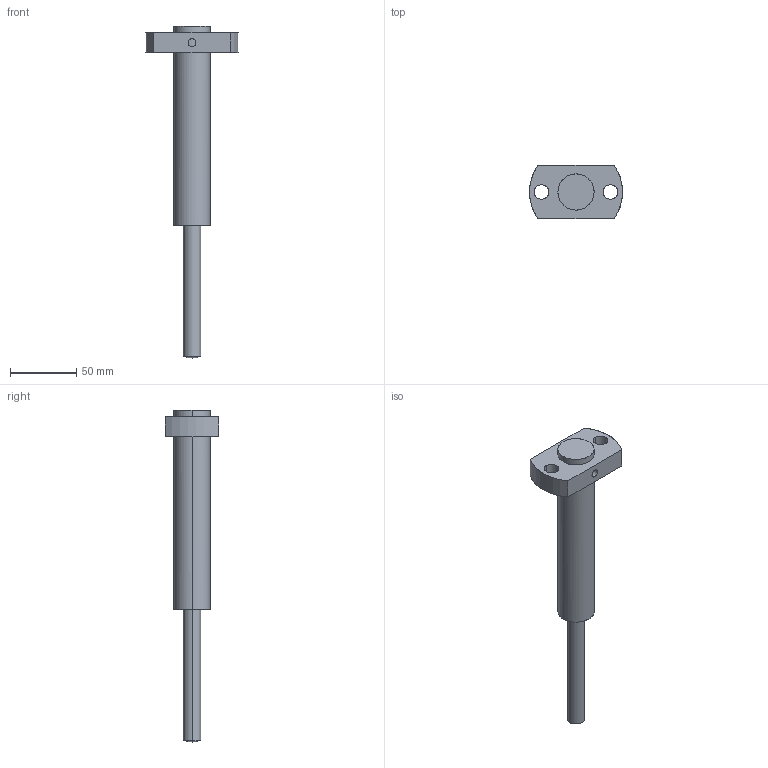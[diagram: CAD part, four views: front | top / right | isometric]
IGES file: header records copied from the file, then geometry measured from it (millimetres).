
Global section: file name: E:\UnigraphicsGraphicData\MISUMI_PRESS-PARTS\IGES\3d_papz13-100-150-130-90_01701_r00.igs; native system: NX V5.0; preprocessor: UGS NX IGES V5.0; author: MISUMI; date: 20110105.162226; units: millimetre
Bounding box: 70 x 40 x 250 mm (x, y, z)
Surface area: 27413.4 mm2 (no closed solid volume)
Topology: 0 solids, 0 shells, 23 faces, 212 edges, 210 vertices
Faces by surface type: bspline 23
